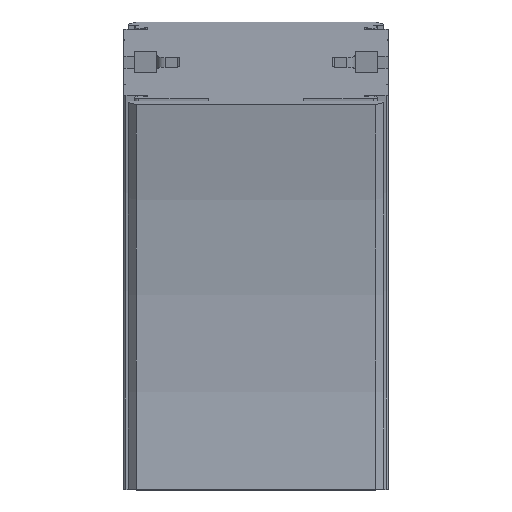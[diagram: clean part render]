
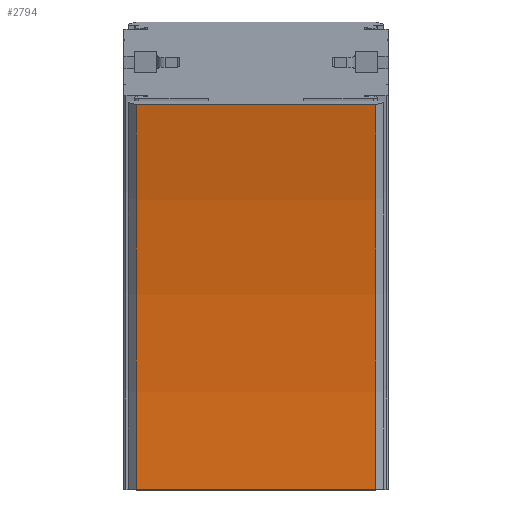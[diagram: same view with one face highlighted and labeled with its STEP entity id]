
A CAD part, top view. The second image highlights one B-rep face of the part: STEP entity #2794.
In plain terms, the highlighted cylindrical face has radius 360 mm (diameter 720 mm), a partial arc.
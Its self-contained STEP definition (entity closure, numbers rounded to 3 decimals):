
#88=CYLINDRICAL_SURFACE('',#3073,360.);
#298=CIRCLE('',#3072,360.);
#299=CIRCLE('',#3074,360.);
#463=FACE_OUTER_BOUND('',#617,.T.);
#617=EDGE_LOOP('',(#2255,#2256,#2257,#2258));
#805=LINE('',#9301,#1011);
#806=LINE('',#9303,#1012);
#1011=VECTOR('',#3758,10.);
#1012=VECTOR('',#3759,10.);
#1277=VERTEX_POINT('',#9294);
#1278=VERTEX_POINT('',#9296);
#1279=VERTEX_POINT('',#9300);
#1280=VERTEX_POINT('',#9302);
#1665=EDGE_CURVE('',#1277,#1278,#298,.T.);
#1666=EDGE_CURVE('',#1279,#1277,#805,.T.);
#1667=EDGE_CURVE('',#1280,#1278,#806,.T.);
#1668=EDGE_CURVE('',#1279,#1280,#299,.T.);
#2255=ORIENTED_EDGE('',*,*,#1666,.T.);
#2256=ORIENTED_EDGE('',*,*,#1665,.T.);
#2257=ORIENTED_EDGE('',*,*,#1667,.F.);
#2258=ORIENTED_EDGE('',*,*,#1668,.F.);
#2794=ADVANCED_FACE('',(#463),#88,.F.);
#3072=AXIS2_PLACEMENT_3D('',#9298,#3754,#3755);
#3073=AXIS2_PLACEMENT_3D('',#9299,#3756,#3757);
#3074=AXIS2_PLACEMENT_3D('',#9304,#3760,#3761);
#3754=DIRECTION('center_axis',(1.,0.,0.));
#3755=DIRECTION('ref_axis',(0.,0.,
-1.));
#3756=DIRECTION('center_axis',(1.,0.,0.));
#3757=DIRECTION('ref_axis',(0.,0.,-1.));
#3758=DIRECTION('',(1.,0.,0.));
#3759=DIRECTION('',(1.,0.,0.));
#3760=DIRECTION('center_axis',(1.,0.,0.));
#3761=DIRECTION('ref_axis',(0.,0.,
-1.));
#9294=CARTESIAN_POINT('',(29.,0.,40.));
#9296=CARTESIAN_POINT('',(29.,93.175,52.267));
#9298=CARTESIAN_POINT('Origin',(29.,0.,400.));
#9299=CARTESIAN_POINT('Origin',(-14.5,0.,400.));
#9300=CARTESIAN_POINT('',(-29.,0.,40.));
#9301=CARTESIAN_POINT('',(-29.,0.,40.));
#9302=CARTESIAN_POINT('',(-29.,93.175,52.267));
#9303=CARTESIAN_POINT('',(-29.,93.175,52.267));
#9304=CARTESIAN_POINT('Origin',(-29.,0.,
400.));
